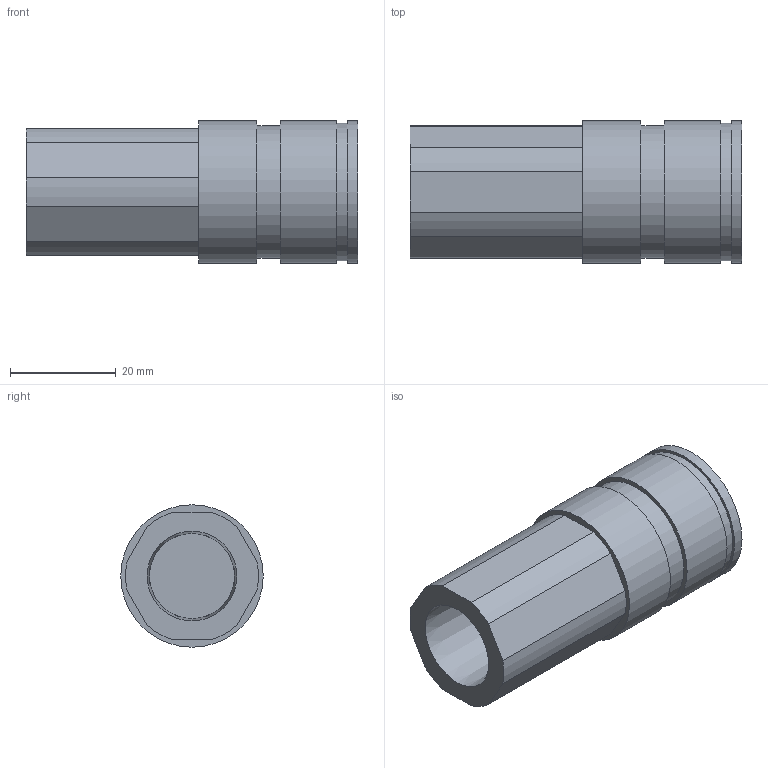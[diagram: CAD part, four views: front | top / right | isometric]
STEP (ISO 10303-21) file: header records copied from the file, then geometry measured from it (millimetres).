
FILE_DESCRIPTION((''),'2;1');
FILE_NAME('Z:\客先\あ行\アオイ\99_その他\3D_DATA\CPR_Series\9CPR-SSV-RC-C\STEP\203\CPR-SSV-RC3-8-C.ipt.stp','2008-07-02T15:27:51',(''),(''),'Autodesk Inventor 2009','Autodesk Inventor 2009','');
FILE_SCHEMA(('CONFIG_CONTROL_DESIGN'));
Length unit declared in the file: millimetre
Products named in the file (1): CPR-SSV-RC3-8-C
Bounding box: 62.9 x 27 x 27 mm (x, y, z)
Volume: 23228.5 mm3; surface area: 8502.3 mm2
Topology: 1 solids, 1 shells, 28 faces, 57 edges, 38 vertices
Faces by surface type: plane 15, cylinder 12, cone 1
Full cylindrical faces by diameter (mm): 19.1 x1, 25.2 x1, 26 x1, 27 x3
Entity records: 729 total; most frequent: DIRECTION 134, CARTESIAN_POINT 117, ORIENTED_EDGE 100, AXIS2_PLACEMENT_3D 55, EDGE_CURVE 50, EDGE_LOOP 42, VERTEX_POINT 38, FACE_OUTER_BOUND 28
